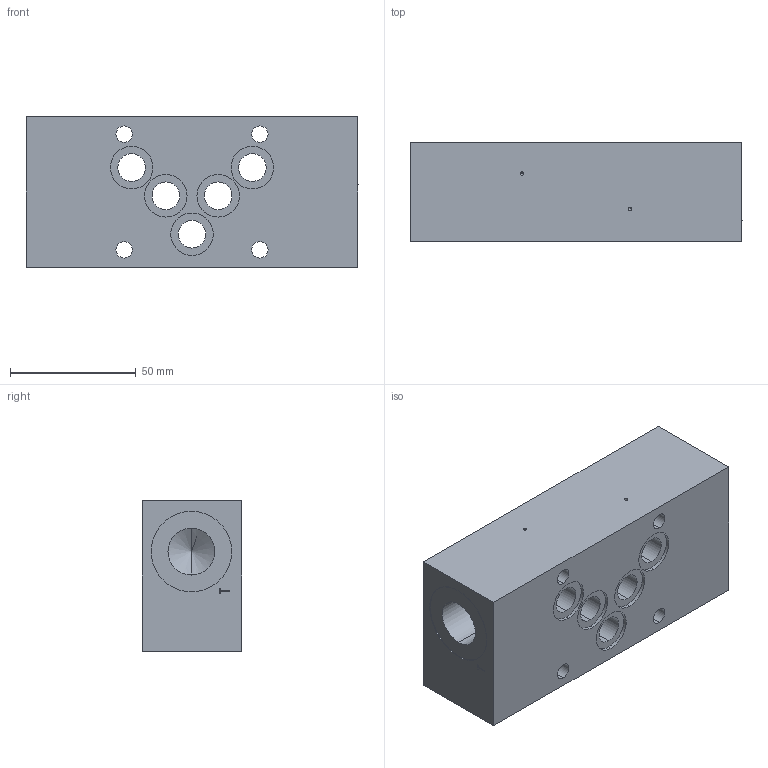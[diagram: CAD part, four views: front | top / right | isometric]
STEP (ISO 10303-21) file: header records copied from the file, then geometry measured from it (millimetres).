
FILE_DESCRIPTION (( 'STEP AP214' ), '1' );
FILE_NAME ('ASGKPT10.STEP', '2017-03-20T06:14:43', ( '' ), ( '' ), 'SwSTEP 2.0', 'SolidWorks 2016', '' );
FILE_SCHEMA (( 'AUTOMOTIVE_DESIGN' ));
Length unit declared in the file: millimetre
Products named in the file (1): ASGKPT10
Bounding box: 132 x 39.5 x 60 mm (x, y, z)
Volume: 275022.2 mm3; surface area: 42624.3 mm2
Topology: 1 solids, 1 shells, 86 faces, 214 edges, 136 vertices
Faces by surface type: cylinder 40, plane 32, cone 8, bspline 6
Entity records: 2964 total; most frequent: CARTESIAN_POINT 803, DIRECTION 436, ORIENTED_EDGE 412, EDGE_CURVE 206, AXIS2_PLACEMENT_3D 161, VERTEX_POINT 136, EDGE_LOOP 118, LINE 114
